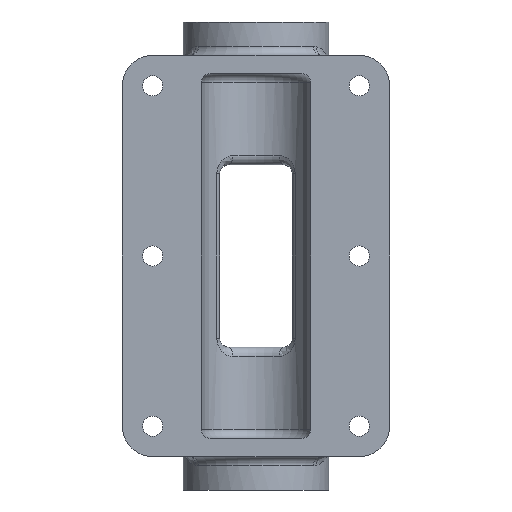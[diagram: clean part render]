
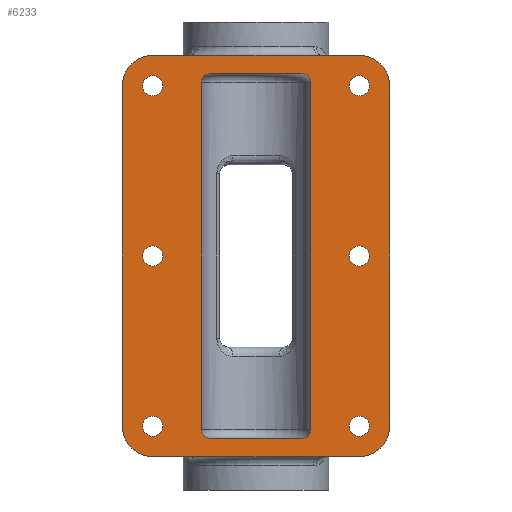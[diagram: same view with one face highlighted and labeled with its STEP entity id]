
A CAD part, front view. The second image highlights one B-rep face of the part: STEP entity #6233.
In plain terms, the highlighted planar face has unit normal (0, -1, 0).
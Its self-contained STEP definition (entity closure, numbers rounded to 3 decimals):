
#204=CIRCLE('',#6524,3.3);
#208=CIRCLE('',#6531,3.3);
#212=CIRCLE('',#6538,3.3);
#216=CIRCLE('',#6545,3.3);
#220=CIRCLE('',#6552,3.3);
#224=CIRCLE('',#6559,3.3);
#293=CIRCLE('',#6672,3.);
#296=CIRCLE('',#6677,3.);
#298=CIRCLE('',#6681,3.);
#301=CIRCLE('',#6686,3.);
#302=CIRCLE('',#6695,10.);
#303=CIRCLE('',#6697,10.);
#304=CIRCLE('',#6698,10.);
#305=CIRCLE('',#6699,10.);
#358=FACE_BOUND('',#1204,.T.);
#359=FACE_BOUND('',#1205,.T.);
#360=FACE_BOUND('',#1206,.T.);
#361=FACE_BOUND('',#1207,.T.);
#362=FACE_BOUND('',#1208,.T.);
#363=FACE_BOUND('',#1209,.T.);
#364=FACE_BOUND('',#1210,.T.);
#798=FACE_OUTER_BOUND('',#1203,.T.);
#1203=EDGE_LOOP('',(#5674,#5675,#5676,#5677,#5678,#5679,#5680,#5681));
#1204=EDGE_LOOP('',(#5682));
#1205=EDGE_LOOP('',(#5683));
#1206=EDGE_LOOP('',(#5684));
#1207=EDGE_LOOP('',(#5685));
#1208=EDGE_LOOP('',(#5686));
#1209=EDGE_LOOP('',(#5687));
#1210=EDGE_LOOP('',(#5688,#5689,#5690,#5691,#5692,#5693,#5694,#5695));
#1689=LINE('',#10623,#2219);
#1694=LINE('',#10860,#2224);
#1733=LINE('',#11568,#2263);
#1738=LINE('',#11588,#2268);
#1743=LINE('',#11606,#2273);
#1744=LINE('',#11610,#2274);
#1745=LINE('',#11611,#2275);
#1746=LINE('',#11612,#2276);
#2219=VECTOR('',#7792,10.);
#2224=VECTOR('',#7835,10.);
#2263=VECTOR('',#8046,10.);
#2268=VECTOR('',#8069,10.);
#2273=VECTOR('',#8094,10.);
#2274=VECTOR('',#8099,10.);
#2275=VECTOR('',#8100,10.);
#2276=VECTOR('',#8101,10.);
#2937=VERTEX_POINT('',#10327);
#2941=VERTEX_POINT('',#10340);
#2945=VERTEX_POINT('',#10353);
#2949=VERTEX_POINT('',#10366);
#2953=VERTEX_POINT('',#10379);
#2957=VERTEX_POINT('',#10392);
#2972=VERTEX_POINT('',#10620);
#2973=VERTEX_POINT('',#10622);
#2989=VERTEX_POINT('',#10857);
#2990=VERTEX_POINT('',#10859);
#3037=VERTEX_POINT('',#11552);
#3038=VERTEX_POINT('',#11554);
#3040=VERTEX_POINT('',#11562);
#3041=VERTEX_POINT('',#11563);
#3043=VERTEX_POINT('',#11572);
#3044=VERTEX_POINT('',#11574);
#3046=VERTEX_POINT('',#11582);
#3047=VERTEX_POINT('',#11583);
#3048=VERTEX_POINT('',#11599);
#3049=VERTEX_POINT('',#11603);
#3050=VERTEX_POINT('',#11605);
#3051=VERTEX_POINT('',#11608);
#3739=EDGE_CURVE('',#2937,#2937,#204,.T.);
#3745=EDGE_CURVE('',#2941,#2941,#208,.T.);
#3751=EDGE_CURVE('',#2945,#2945,#212,.T.);
#3757=EDGE_CURVE('',#2949,#2949,#216,.T.);
#3763=EDGE_CURVE('',#2953,#2953,#220,.T.);
#3769=EDGE_CURVE('',#2957,#2957,#224,.T.);
#3791=EDGE_CURVE('',#2972,#2973,#1689,.T.);
#3818=EDGE_CURVE('',#2989,#2990,#1694,.T.);
#3913=EDGE_CURVE('',#3037,#3038,#293,.T.);
#3917=EDGE_CURVE('',#3040,#3041,#296,.T.);
#3920=EDGE_CURVE('',#3040,#3038,#1733,.T.);
#3923=EDGE_CURVE('',#3043,#3044,#298,.T.);
#3927=EDGE_CURVE('',#3046,#3047,#301,.T.);
#3930=EDGE_CURVE('',#3046,#3044,#1738,.T.);
#3934=EDGE_CURVE('',#2973,#3048,#302,.T.);
#3936=EDGE_CURVE('',#3049,#2972,#303,.T.);
#3937=EDGE_CURVE('',#3049,#3050,#1743,.T.);
#3938=EDGE_CURVE('',#2990,#3050,#304,.T.);
#3939=EDGE_CURVE('',#3051,#2989,#305,.T.);
#3940=EDGE_CURVE('',#3048,#3051,#1744,.T.);
#3941=EDGE_CURVE('',#3043,#3041,#1745,.T.);
#3942=EDGE_CURVE('',#3037,#3047,#1746,.T.);
#5674=ORIENTED_EDGE('',*,*,#3934,.F.);
#5675=ORIENTED_EDGE('',*,*,#3791,.F.);
#5676=ORIENTED_EDGE('',*,*,#3936,.F.);
#5677=ORIENTED_EDGE('',*,*,#3937,.T.);
#5678=ORIENTED_EDGE('',*,*,#3938,.F.);
#5679=ORIENTED_EDGE('',*,*,#3818,.F.);
#5680=ORIENTED_EDGE('',*,*,#3939,.F.);
#5681=ORIENTED_EDGE('',*,*,#3940,.F.);
#5682=ORIENTED_EDGE('',*,*,#3739,.T.);
#5683=ORIENTED_EDGE('',*,*,#3745,.T.);
#5684=ORIENTED_EDGE('',*,*,#3751,.T.);
#5685=ORIENTED_EDGE('',*,*,#3757,.T.);
#5686=ORIENTED_EDGE('',*,*,#3763,.T.);
#5687=ORIENTED_EDGE('',*,*,#3769,.T.);
#5688=ORIENTED_EDGE('',*,*,#3930,.T.);
#5689=ORIENTED_EDGE('',*,*,#3923,.F.);
#5690=ORIENTED_EDGE('',*,*,#3941,.T.);
#5691=ORIENTED_EDGE('',*,*,#3917,.F.);
#5692=ORIENTED_EDGE('',*,*,#3920,.T.);
#5693=ORIENTED_EDGE('',*,*,#3913,.F.);
#5694=ORIENTED_EDGE('',*,*,#3942,.T.);
#5695=ORIENTED_EDGE('',*,*,#3927,.F.);
#5885=PLANE('',#6696);
#6233=ADVANCED_FACE('',(#798,#358,#359,#360,#361,#362,#363,#364),#5885,
 .T.);
#6524=AXIS2_PLACEMENT_3D('',#10329,#7680,#7681);
#6531=AXIS2_PLACEMENT_3D('',#10342,#7696,#7697);
#6538=AXIS2_PLACEMENT_3D('',#10355,#7712,#7713);
#6545=AXIS2_PLACEMENT_3D('',#10368,#7728,#7729);
#6552=AXIS2_PLACEMENT_3D('',#10381,#7744,#7745);
#6559=AXIS2_PLACEMENT_3D('',#10394,#7760,#7761);
#6672=AXIS2_PLACEMENT_3D('',#11555,#8029,#8030);
#6677=AXIS2_PLACEMENT_3D('',#11564,#8040,#8041);
#6681=AXIS2_PLACEMENT_3D('',#11575,#8052,#8053);
#6686=AXIS2_PLACEMENT_3D('',#11584,#8063,#8064);
#6695=AXIS2_PLACEMENT_3D('',#11600,#8087,#8088);
#6696=AXIS2_PLACEMENT_3D('',#11602,#8090,#8091);
#6697=AXIS2_PLACEMENT_3D('',#11604,#8092,#8093);
#6698=AXIS2_PLACEMENT_3D('',#11607,#8095,#8096);
#6699=AXIS2_PLACEMENT_3D('',#11609,#8097,#8098);
#7680=DIRECTION('center_axis',(0.,1.,0.));
#7681=DIRECTION('ref_axis',(1.,0.,0.));
#7696=DIRECTION('center_axis',(0.,1.,0.));
#7697=DIRECTION('ref_axis',(1.,0.,0.));
#7712=DIRECTION('center_axis',(0.,1.,0.));
#7713=DIRECTION('ref_axis',(1.,0.,0.));
#7728=DIRECTION('center_axis',(0.,1.,0.));
#7729=DIRECTION('ref_axis',(1.,0.,0.));
#7744=DIRECTION('center_axis',(0.,1.,0.));
#7745=DIRECTION('ref_axis',(1.,0.,0.));
#7760=DIRECTION('center_axis',(0.,1.,0.));
#7761=DIRECTION('ref_axis',(1.,0.,0.));
#7792=DIRECTION('',(-1.,0.,0.));
#7835=DIRECTION('',(1.,0.,0.));
#8029=DIRECTION('center_axis',(0.,-1.,0.));
#8030=DIRECTION('ref_axis',(0.707,0.,0.707));
#8040=DIRECTION('center_axis',(0.,-1.,0.));
#8041=DIRECTION('ref_axis',(-0.707,0.,0.707));
#8046=DIRECTION('',(1.,0.,0.));
#8052=DIRECTION('center_axis',(0.,-1.,0.));
#8053=DIRECTION('ref_axis',(-0.707,0.,-0.707));
#8063=DIRECTION('center_axis',(0.,-1.,0.));
#8064=DIRECTION('ref_axis',(0.707,0.,-0.707));
#8069=DIRECTION('',(-1.,0.,0.));
#8087=DIRECTION('center_axis',(0.,1.,0.));
#8088=DIRECTION('ref_axis',(-0.707,0.,-0.707));
#8090=DIRECTION('center_axis',(0.,-1.,0.));
#8091=DIRECTION('ref_axis',(1.,0.,0.));
#8092=DIRECTION('center_axis',(0.,1.,0.));
#8093=DIRECTION('ref_axis',(0.707,0.,-0.707));
#8094=DIRECTION('',(0.,0.,1.));
#8095=DIRECTION('center_axis',(0.,1.,0.));
#8096=DIRECTION('ref_axis',(0.707,0.,0.707));
#8097=DIRECTION('center_axis',(0.,1.,0.));
#8098=DIRECTION('ref_axis',(-0.707,0.,0.707));
#8099=DIRECTION('',(0.,0.,1.));
#8100=DIRECTION('',(0.,0.,1.));
#8101=DIRECTION('',(0.,0.,-1.));
#10327=CARTESIAN_POINT('',(30.7,-59.,0.));
#10329=CARTESIAN_POINT('Origin',(34.,-59.,0.));
#10340=CARTESIAN_POINT('',(-37.3,-59.,0.));
#10342=CARTESIAN_POINT('Origin',(-34.,-59.,0.));
#10353=CARTESIAN_POINT('',(-37.3,-59.,-56.));
#10355=CARTESIAN_POINT('Origin',(-34.,-59.,-56.));
#10366=CARTESIAN_POINT('',(-37.3,-59.,56.));
#10368=CARTESIAN_POINT('Origin',(-34.,-59.,56.));
#10379=CARTESIAN_POINT('',(30.7,-59.,-56.));
#10381=CARTESIAN_POINT('Origin',(34.,-59.,-56.));
#10392=CARTESIAN_POINT('',(30.7,-59.,56.));
#10394=CARTESIAN_POINT('Origin',(34.,-59.,56.));
#10620=CARTESIAN_POINT('',(34.,-59.,-66.));
#10622=CARTESIAN_POINT('',(-34.,-59.,-66.));
#10623=CARTESIAN_POINT('',(-44.,-59.,-66.));
#10857=CARTESIAN_POINT('',(-34.,-59.,66.));
#10859=CARTESIAN_POINT('',(34.,-59.,66.));
#10860=CARTESIAN_POINT('',(-44.,-59.,66.));
#11552=CARTESIAN_POINT('',(18.,-59.,57.));
#11554=CARTESIAN_POINT('',(15.,-59.,60.));
#11555=CARTESIAN_POINT('Origin',(15.,-59.,57.));
#11562=CARTESIAN_POINT('',(-15.,-59.,60.));
#11563=CARTESIAN_POINT('',(-18.,-59.,57.));
#11564=CARTESIAN_POINT('Origin',(-15.,-59.,57.));
#11568=CARTESIAN_POINT('',(-22.,-59.,60.));
#11572=CARTESIAN_POINT('',(-18.,-59.,-57.));
#11574=CARTESIAN_POINT('',(-15.,-59.,-60.));
#11575=CARTESIAN_POINT('Origin',(-15.,-59.,-57.));
#11582=CARTESIAN_POINT('',(15.,-59.,-60.));
#11583=CARTESIAN_POINT('',(18.,-59.,-57.));
#11584=CARTESIAN_POINT('Origin',(15.,-59.,-57.));
#11588=CARTESIAN_POINT('',(-22.,-59.,-60.));
#11599=CARTESIAN_POINT('',(-44.,-59.,-56.));
#11600=CARTESIAN_POINT('Origin',(-34.,-59.,-56.));
#11602=CARTESIAN_POINT('Origin',(-44.,-59.,0.));
#11603=CARTESIAN_POINT('',(44.,-59.,-56.));
#11604=CARTESIAN_POINT('Origin',(34.,-59.,-56.));
#11605=CARTESIAN_POINT('',(44.,-59.,56.));
#11606=CARTESIAN_POINT('',(44.,-59.,0.));
#11607=CARTESIAN_POINT('Origin',(34.,-59.,56.));
#11608=CARTESIAN_POINT('',(-44.,-59.,56.));
#11609=CARTESIAN_POINT('Origin',(-34.,-59.,56.));
#11610=CARTESIAN_POINT('',(-44.,-59.,0.));
#11611=CARTESIAN_POINT('',(-18.,-59.,0.));
#11612=CARTESIAN_POINT('',(18.,-59.,0.));
